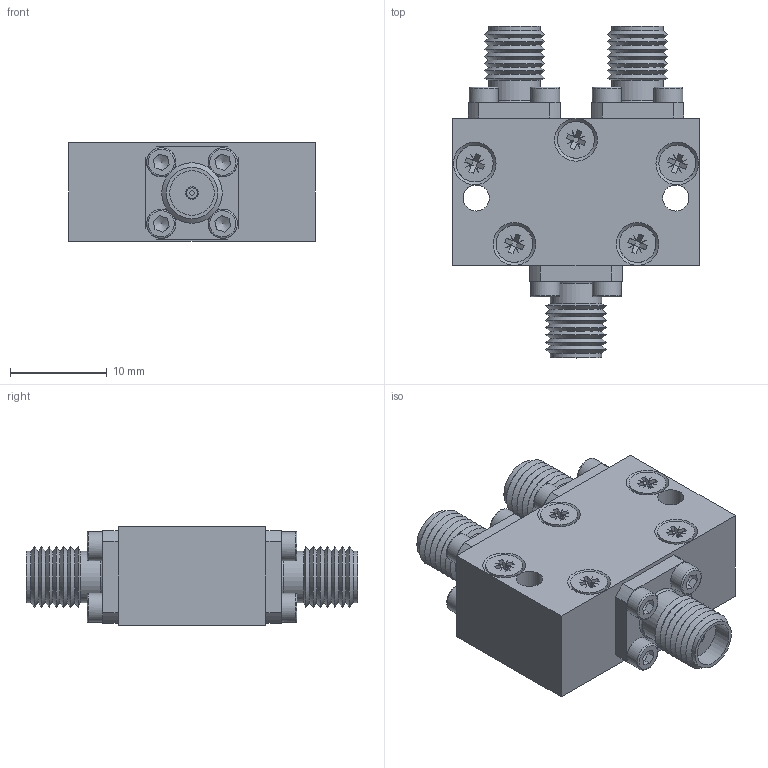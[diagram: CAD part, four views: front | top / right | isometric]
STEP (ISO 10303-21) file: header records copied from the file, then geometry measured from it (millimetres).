
FILE_DESCRIPTION(/* description */ ('Unknown'),/* implementation_level */ '2;1');
FILE_NAME(/* name */ 'DETI_MICROWAVE_2-WAY_POWER_DIVIDER_80019_STEP',/* time_stamp */ '2021-06-30T15:01:42+02:00',/* author */ ('ALG'),/* organization */ ('DETI'),/* preprocessor_version */ 'ST-DEVELOPER v16.7',/* originating_system */ 'Solid Edge',/* authorisation */ 'Unknown');
FILE_SCHEMA (('AUTOMOTIVE_DESIGN {1 0 10303 214 3 1 1}'));
Length unit declared in the file: millimetre
Products named in the file (1): 800196 1501A2
Bounding box: 25.4 x 34.24 x 10.2 mm (x, y, z)
Volume: 4784.9 mm3; surface area: 3591.4 mm2
Topology: 1 solids, 31 shells, 521 faces, 1267 edges, 838 vertices
Faces by surface type: plane 322, cylinder 108, cone 71, torus 20
Full cylindrical faces by diameter (mm): 0.47 x3, 1.1 x3, 1.221 x12, 1.27 x6, 1.567 x5, 1.6 x12, 1.8 x12, 2 x5, 2.2 x5, 2.7 x2, 3 x12, 3.8 x5, 4.1 x3, 4.6 x3, 5.3 x6
Entity records: 17210 total; most frequent: CARTESIAN_POINT 2536, DIRECTION 2210, ORIENTED_EDGE 1950, EDGE_CURVE 975, FACE_BOUND 804, AXIS2_PLACEMENT_3D 793, EDGE_LOOP 780, VERTEX_POINT 755
